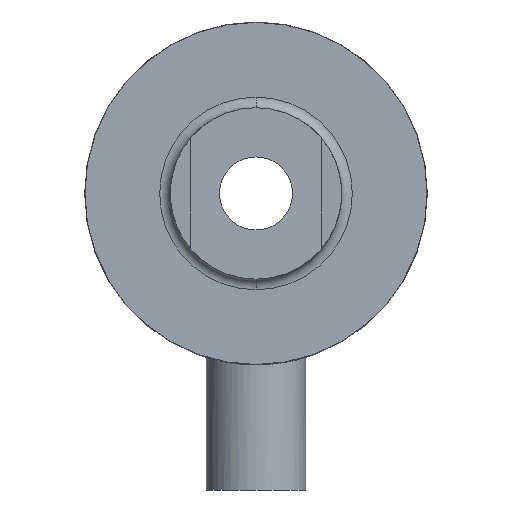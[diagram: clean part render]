
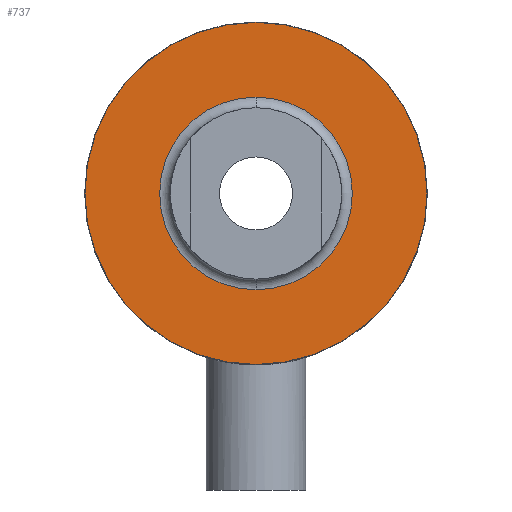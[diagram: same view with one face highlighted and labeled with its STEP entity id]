
A CAD part, front view. The second image highlights one B-rep face of the part: STEP entity #737.
In plain terms, the highlighted planar face has unit normal (0, -1, 0).
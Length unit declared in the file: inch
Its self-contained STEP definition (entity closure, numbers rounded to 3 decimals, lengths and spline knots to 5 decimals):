
#179 = AXIS2_PLACEMENT_3D ( 'NONE', #718, #719, #720 ) ;
#222 = AXIS2_PLACEMENT_3D ( 'NONE', #486, #495, #491 ) ;
#236 = AXIS2_PLACEMENT_3D ( 'NONE', #541, #528, #536 ) ;
#244 = AXIS2_PLACEMENT_3D ( 'NONE', #470, #460, #465 ) ;
#247 = AXIS2_PLACEMENT_3D ( 'NONE', #265, #257, #258 ) ;
#257 = DIRECTION ( 'NONE',  ( 0., 1., 0. ) ) ;
#258 = DIRECTION ( 'NONE',  ( 0., 0., 1. ) ) ;
#265 = CARTESIAN_POINT ( 'NONE',  ( 0., 0., 0. ) ) ;
#284 = VERTEX_POINT ( 'NONE', #370 ) ;
#302 = VERTEX_POINT ( 'NONE', #363 ) ;
#312 = VERTEX_POINT ( 'NONE', #344 ) ;
#323 = VERTEX_POINT ( 'NONE', #366 ) ;
#344 = CARTESIAN_POINT ( 'NONE',  ( 0., 0., -0.281 ) ) ;
#363 = CARTESIAN_POINT ( 'NONE',  ( 0., 0., -0.499 ) ) ;
#366 = CARTESIAN_POINT ( 'NONE',  ( 0., 0., 0.281 ) ) ;
#370 = CARTESIAN_POINT ( 'NONE',  ( 0., 0., 0.499 ) ) ;
#460 = DIRECTION ( 'NONE',  ( 0., -1., 0. ) ) ;
#465 = DIRECTION ( 'NONE',  ( 0., 0., 1. ) ) ;
#470 = CARTESIAN_POINT ( 'NONE',  ( 0., 0., 0. ) ) ;
#486 = CARTESIAN_POINT ( 'NONE',  ( 0., 0., 0. ) ) ;
#491 = DIRECTION ( 'NONE',  ( 0., 0., 1. ) ) ;
#495 = DIRECTION ( 'NONE',  ( 0., 1., 0. ) ) ;
#528 = DIRECTION ( 'NONE',  ( 0., -1., 0. ) ) ;
#536 = DIRECTION ( 'NONE',  ( 0., 0., 1. ) ) ;
#541 = CARTESIAN_POINT ( 'NONE',  ( 0., 0., 0. ) ) ;
#602 = FACE_OUTER_BOUND ( 'NONE', #931, .T. ) ;
#604 = FACE_BOUND ( 'NONE', #900, .T. ) ;
#614 = EDGE_CURVE ( 'NONE', #312, #323, #806, .T. ) ;
#618 = EDGE_CURVE ( 'NONE', #302, #284, #794, .T. ) ;
#640 = EDGE_CURVE ( 'NONE', #284, #302, #818, .T. ) ;
#646 = EDGE_CURVE ( 'NONE', #323, #312, #828, .T. ) ;
#717 = PLANE ( 'NONE',  #179 ) ;
#718 = CARTESIAN_POINT ( 'NONE',  ( 0., 0., 0. ) ) ;
#719 = DIRECTION ( 'NONE',  ( 0., 1., 0. ) ) ;
#720 = DIRECTION ( 'NONE',  ( 0., 0., 1. ) ) ;
#737 = ADVANCED_FACE ( 'NONE', ( #602, #604 ), #717, .F. ) ;
#794 = CIRCLE ( 'NONE', #236, 0.499 ) ;
#806 = CIRCLE ( 'NONE', #247, 0.281 ) ;
#818 = CIRCLE ( 'NONE', #244, 0.499 ) ;
#828 = CIRCLE ( 'NONE', #222, 0.281 ) ;
#854 = ORIENTED_EDGE ( 'NONE', *, *, #618, .T. ) ;
#855 = ORIENTED_EDGE ( 'NONE', *, *, #646, .T. ) ;
#865 = ORIENTED_EDGE ( 'NONE', *, *, #614, .T. ) ;
#883 = ORIENTED_EDGE ( 'NONE', *, *, #640, .T. ) ;
#900 = EDGE_LOOP ( 'NONE', ( #855, #865 ) ) ;
#931 = EDGE_LOOP ( 'NONE', ( #883, #854 ) ) ;
